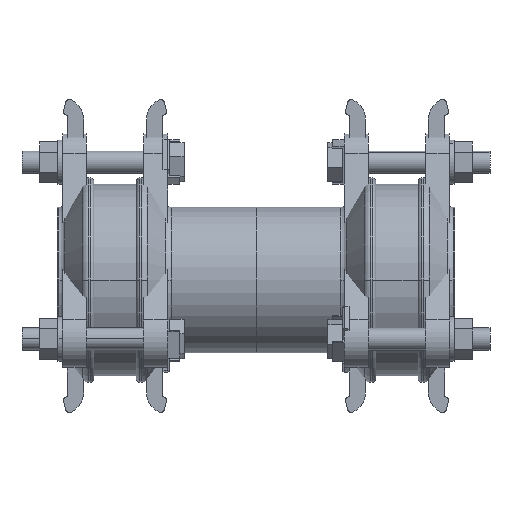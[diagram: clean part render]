
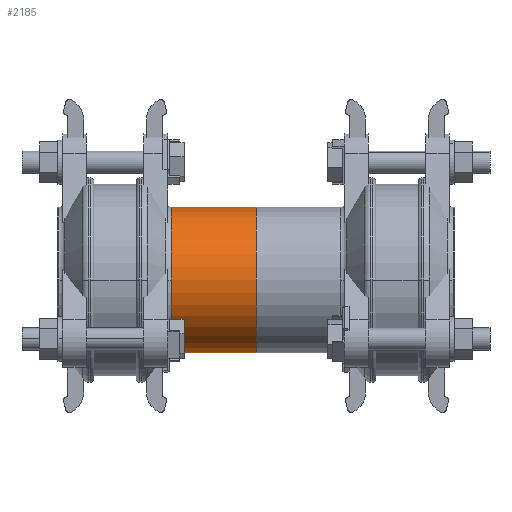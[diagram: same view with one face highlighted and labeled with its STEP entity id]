
A CAD part, front view. The second image highlights one B-rep face of the part: STEP entity #2185.
In plain terms, the highlighted cylindrical face has radius 39.5 mm (diameter 79 mm), a partial arc.
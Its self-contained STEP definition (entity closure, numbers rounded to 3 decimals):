
#2185=ADVANCED_FACE('',(#4027),#4028,.T.);
#4027=FACE_OUTER_BOUND('',#6031,.T.);
#4028=CYLINDRICAL_SURFACE('',#6032,39.5);
#6031=EDGE_LOOP('',(#10073,#10074,#10075,#10076,#10077));
#6032=AXIS2_PLACEMENT_3D('',#10078,#10079,#10080);
#10073=ORIENTED_EDGE('',*,*,#12449,.F.);
#10074=ORIENTED_EDGE('',*,*,#11434,.T.);
#10075=ORIENTED_EDGE('',*,*,#11558,.T.);
#10076=ORIENTED_EDGE('',*,*,#12451,.F.);
#10077=ORIENTED_EDGE('',*,*,#12485,.F.);
#10078=CARTESIAN_POINT('',(-6.027,0.,0.));
#10079=DIRECTION('',(1.0,0.,0.));
#10080=DIRECTION('',(0.,0.,1.0));
#11434=EDGE_CURVE('',#13612,#13613,#13614,.T.);
#11558=EDGE_CURVE('',#13613,#13799,#13801,.T.);
#12449=EDGE_CURVE('',#13612,#14994,#14995,.T.);
#12451=EDGE_CURVE('',#14996,#13799,#14998,.T.);
#12485=EDGE_CURVE('',#14994,#14996,#15033,.T.);
#13612=VERTEX_POINT('',#16501);
#13613=VERTEX_POINT('',#16502);
#13614=CIRCLE('',#16503,39.5);
#13799=VERTEX_POINT('',#16762);
#13801=CIRCLE('',#16764,39.5);
#14994=VERTEX_POINT('',#18334);
#14995=LINE('',#18335,#18336);
#14996=VERTEX_POINT('',#18337);
#14998=LINE('',#18339,#18340);
#15033=CIRCLE('',#18383,39.5);
#16501=CARTESIAN_POINT('',(-29.053,0.,39.5));
#16502=CARTESIAN_POINT('',(-29.053,-39.5,0.));
#16503=AXIS2_PLACEMENT_3D('',#19233,#19234,#19235);
#16762=CARTESIAN_POINT('',(-29.053,0.,-39.5));
#16764=AXIS2_PLACEMENT_3D('',#19364,#19365,#19366);
#18334=CARTESIAN_POINT('',(17.0,0.,39.5));
#18335=CARTESIAN_POINT('',(-6.027,0.,39.5));
#18336=VECTOR('',#20353,1.0);
#18337=CARTESIAN_POINT('',(17.0,0.,-39.5));
#18339=CARTESIAN_POINT('',(-6.027,0.,-39.5));
#18340=VECTOR('',#20357,1.0);
#18383=AXIS2_PLACEMENT_3D('',#20378,#20379,#20380);
#19233=CARTESIAN_POINT('',(-29.053,0.,0.0));
#19234=DIRECTION('',(1.0,0.,0.));
#19235=DIRECTION('',(0.,0.,1.0));
#19364=CARTESIAN_POINT('',(-29.053,0.,0.0));
#19365=DIRECTION('',(1.0,0.,0.));
#19366=DIRECTION('',(0.,0.,1.0));
#20353=DIRECTION('',(1.0,0.,0.));
#20357=DIRECTION('',(-1.0,0.,0.));
#20378=CARTESIAN_POINT('',(17.0,0.,0.));
#20379=DIRECTION('',(1.0,0.,0.));
#20380=DIRECTION('',(0.,0.,1.0));
